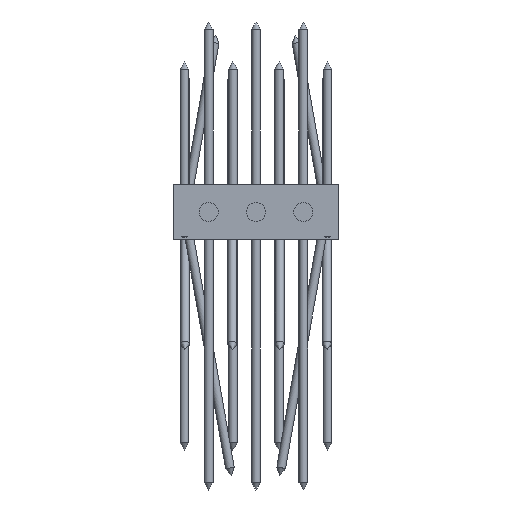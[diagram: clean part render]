
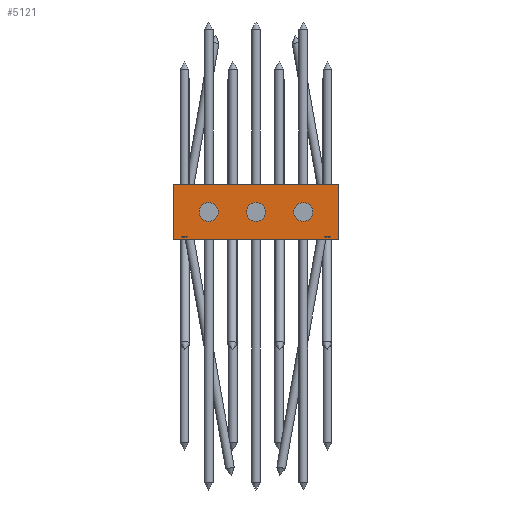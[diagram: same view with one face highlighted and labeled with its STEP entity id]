
A CAD part, front view. The second image highlights one B-rep face of the part: STEP entity #5121.
In plain terms, the highlighted planar face has unit normal (0, -1, 0) as drawn and (0, 0, 1) by its records, which use the part's own axes.
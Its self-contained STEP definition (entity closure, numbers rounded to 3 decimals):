
#323=LINE('',#9390,#521);
#331=LINE('',#9414,#529);
#332=LINE('',#9422,#530);
#333=LINE('',#9423,#531);
#521=VECTOR('',#7668,1000.);
#529=VECTOR('',#7688,1000.);
#530=VECTOR('',#7697,1000.);
#531=VECTOR('',#7698,1000.);
#1142=PLANE('',#6134);
#2236=ORIENTED_EDGE('',*,*,#2794,.F.);
#2237=ORIENTED_EDGE('',*,*,#2795,.F.);
#2238=ORIENTED_EDGE('',*,*,#2796,.F.);
#2239=ORIENTED_EDGE('',*,*,#2797,.F.);
#2240=ORIENTED_EDGE('',*,*,#2793,.F.);
#2241=ORIENTED_EDGE('',*,*,#2798,.T.);
#2242=ORIENTED_EDGE('',*,*,#2781,.T.);
#2781=EDGE_CURVE('',#3228,#3226,#323,.T.);
#2793=EDGE_CURVE('',#3237,#3236,#331,.T.);
#2794=EDGE_CURVE('',#3238,#3238,#3438,.T.);
#2795=EDGE_CURVE('',#3239,#3239,#3439,.T.);
#2796=EDGE_CURVE('',#3240,#3240,#3440,.T.);
#2797=EDGE_CURVE('',#3236,#3226,#332,.T.);
#2798=EDGE_CURVE('',#3237,#3228,#333,.T.);
#3226=VERTEX_POINT('',#9388);
#3228=VERTEX_POINT('',#9391);
#3236=VERTEX_POINT('',#9411);
#3237=VERTEX_POINT('',#9413);
#3238=VERTEX_POINT('',#9417);
#3239=VERTEX_POINT('',#9419);
#3240=VERTEX_POINT('',#9421);
#3438=CIRCLE('',#6135,8.647);
#3439=CIRCLE('',#6136,8.647);
#3440=CIRCLE('',#6137,8.647);
#4068=EDGE_LOOP('',(#2236));
#4069=EDGE_LOOP('',(#2237));
#4070=EDGE_LOOP('',(#2238));
#4071=EDGE_LOOP('',(#2239,#2240,#2241,#2242));
#4728=FACE_BOUND('',#4068,.T.);
#4729=FACE_BOUND('',#4069,.T.);
#4730=FACE_BOUND('',#4070,.T.);
#4731=FACE_BOUND('',#4071,.T.);
#5121=ADVANCED_FACE('',(#4728,#4729,#4730,#4731),#1142,.T.);
#6134=AXIS2_PLACEMENT_3D('',#9415,#7689,#7690);
#6135=AXIS2_PLACEMENT_3D('',#9416,#7691,#7692);
#6136=AXIS2_PLACEMENT_3D('',#9418,#7693,#7694);
#6137=AXIS2_PLACEMENT_3D('',#9420,#7695,#7696);
#7668=DIRECTION('',(0.,-1.,0.));
#7688=DIRECTION('',(0.,-1.,0.));
#7689=DIRECTION('',(0.,0.,1.));
#7690=DIRECTION('',(1.,0.,0.));
#7691=DIRECTION('',(0.,0.,1.));
#7692=DIRECTION('',(1.,0.,0.));
#7693=DIRECTION('',(0.,0.,1.));
#7694=DIRECTION('',(1.,0.,0.));
#7695=DIRECTION('',(0.,0.,1.));
#7696=DIRECTION('',(1.,0.,0.));
#7697=DIRECTION('',(-1.,0.,0.));
#7698=DIRECTION('',(-1.,0.,0.));
#9388=CARTESIAN_POINT('',(0.,0.,50.));
#9390=CARTESIAN_POINT('',(0.,150.,50.));
#9391=CARTESIAN_POINT('',(0.,150.,50.));
#9411=CARTESIAN_POINT('',(50.,0.,50.));
#9413=CARTESIAN_POINT('',(50.,150.,50.));
#9414=CARTESIAN_POINT('',(50.,150.,50.));
#9415=CARTESIAN_POINT('',(50.,150.,50.));
#9416=CARTESIAN_POINT('',(25.,32.,50.));
#9417=CARTESIAN_POINT('',(33.647,32.,50.));
#9418=CARTESIAN_POINT('',(25.,75.,50.));
#9419=CARTESIAN_POINT('',(33.647,75.,50.));
#9420=CARTESIAN_POINT('',(25.,118.,50.));
#9421=CARTESIAN_POINT('',(33.647,118.,50.));
#9422=CARTESIAN_POINT('',(50.,0.,50.));
#9423=CARTESIAN_POINT('',(50.,150.,50.));
